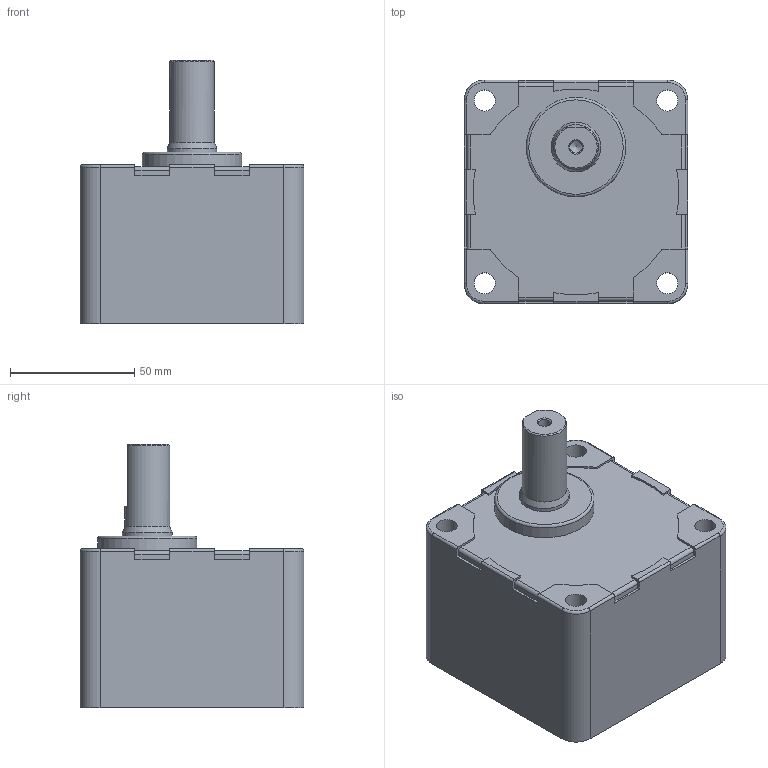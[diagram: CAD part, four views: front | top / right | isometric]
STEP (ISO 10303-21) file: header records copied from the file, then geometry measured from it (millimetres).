
FILE_DESCRIPTION(/* description */ (''),/* implementation_level */ '2;1');
FILE_NAME(/* name */ 'E:\도면작업\2016\0704) 미주향 SG 도면\3D GEAR HEAD\SG9DB120~300.stp',/* time_stamp */ '2016-07-22T14:04:08+09:00',/* author */ ('jy-jung'),/* organization */ (''),/* preprocessor_version */ 'ST-DEVELOPER v15.6',/* originating_system */ 'Autodesk Inventor 2015',/* authorisation */ '');
FILE_SCHEMA (('AUTOMOTIVE_DESIGN { 1 0 10303 214 3 1 1 }'));
Length unit declared in the file: millimetre
Products named in the file (1): SG9DB120~300
Bounding box: 90 x 90 x 106 mm (x, y, z)
Volume: 496292.7 mm3; surface area: 48676.2 mm2
Topology: 1 solids, 1 shells, 104 faces, 279 edges, 181 vertices
Faces by surface type: plane 52, cylinder 41, cone 6, torus 5
Full cylindrical faces by diameter (mm): 4.917 x1, 8.5 x4, 9 x1, 18 x1, 20 x1, 40 x1, 83 x1
Entity records: 3195 total; most frequent: DIRECTION 561, CARTESIAN_POINT 549, ORIENTED_EDGE 522, EDGE_CURVE 261, AXIS2_PLACEMENT_3D 197, VERTEX_POINT 179, LINE 167, VECTOR 167
